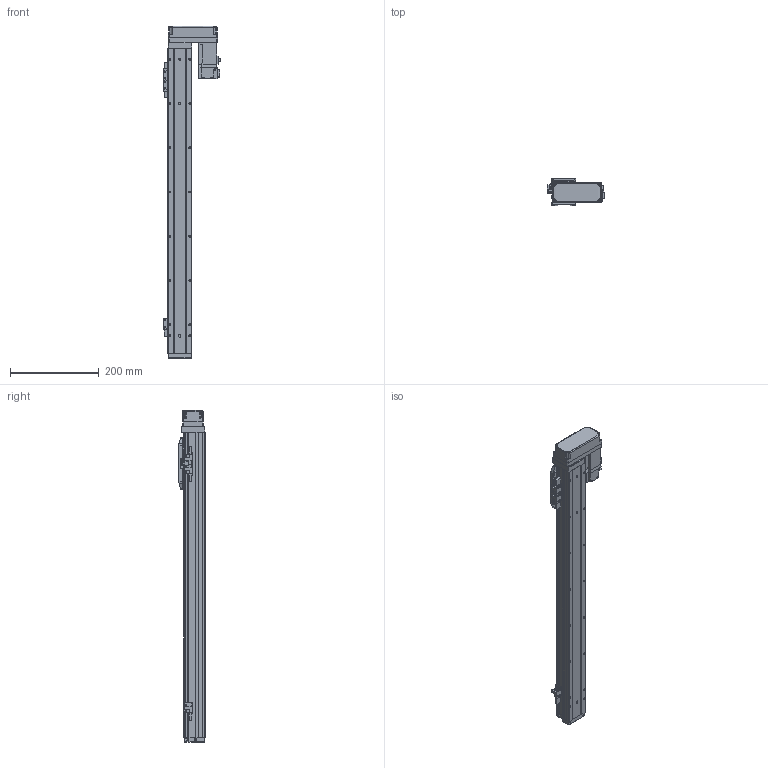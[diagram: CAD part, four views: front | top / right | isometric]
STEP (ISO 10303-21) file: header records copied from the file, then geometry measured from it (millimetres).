
FILE_DESCRIPTION (( 'STEP AP214' ), '1' );
FILE_NAME ('N_GRH5-550-BL-M10.step', '2025-03-14T09:45:41', ( '' ), ( '' ), 'SwSTEP 2.0', 'SolidWorks 2016', '' );
FILE_SCHEMA (( 'AUTOMOTIVE_DESIGN' ));
Length unit declared in the file: millimetre
Products named in the file (5): N_GRH5-GY-004^N_GRH5-550-BL-M10; N_GRH5-GY-011^N_GRH5-550-BL-M10; N_GRH5-BL-008^N_GRH5-550-BL-M10; N_GRH5-550-BL-M10; HF-KP13_100W_Motor^N_GRH5-550-BL-M10
Assembly tree (4 placements, depth 2):
  N_GRH5-550-BL-M10
    N_GRH5-GY-011^N_GRH5-550-BL-M10
    N_GRH5-GY-004^N_GRH5-550-BL-M10
    HF-KP13_100W_Motor^N_GRH5-550-BL-M10
    N_GRH5-BL-008^N_GRH5-550-BL-M10
Bounding box: 128.85 x 60 x 750 mm (x, y, z)
Volume: 1446654.7 mm3; surface area: 364776.5 mm2
Topology: 4 solids, 5 shells, 934 faces, 2400 edges, 1529 vertices
Faces by surface type: plane 557, cylinder 322, cone 30, bspline 15, sphere 10
Entity records: 35621 total; most frequent: CARTESIAN_POINT 5701, DIRECTION 4833, ORIENTED_EDGE 4752, EDGE_CURVE 2376, VECTOR 1639, LINE 1639, AXIS2_PLACEMENT_3D 1597, VERTEX_POINT 1527
